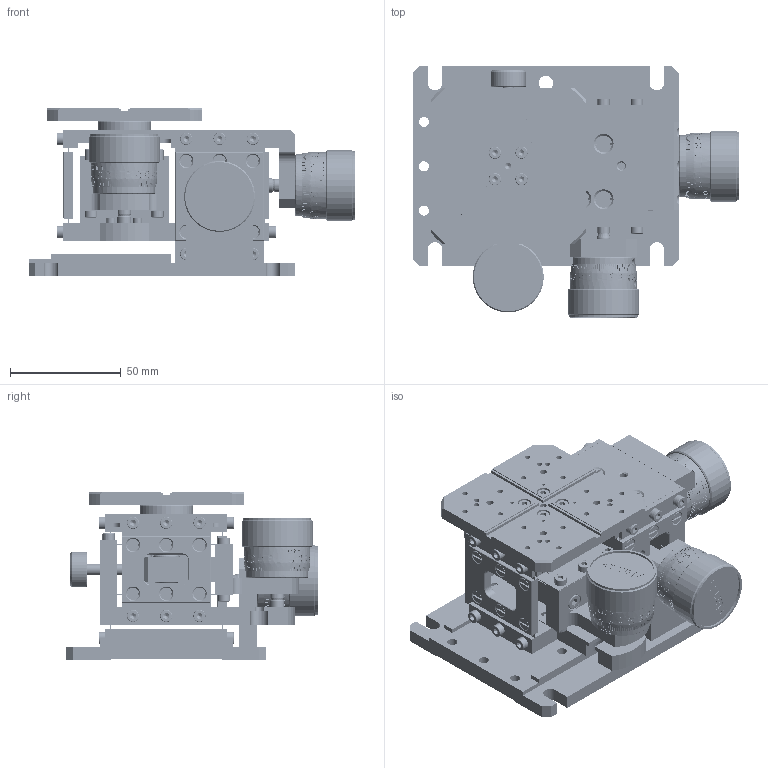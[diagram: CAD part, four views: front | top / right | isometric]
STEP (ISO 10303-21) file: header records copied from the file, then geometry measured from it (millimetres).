
FILE_DESCRIPTION(/* description */ (''),/* implementation_level */ '2;1');
FILE_NAME(/* name */ 'U:\KONSTRUKTORIAI\DOKUMENTACIJA\7\7TF2\STEP\7TF2 SB.stp',/* time_stamp */ '2017-01-11T16:20:43+02:00',/* author */ ('dsgn32'),/* organization */ (''),/* preprocessor_version */ 'ST-DEVELOPER v15.2',/* originating_system */ 'Autodesk Inventor 2014',/* authorisation */ '');
FILE_SCHEMA (('AUTOMOTIVE_DESIGN { 1 0 10303 214 3 1 1 }'));
Products named in the file (2): Part4; Assembly1
Bounding box: 147.15 x 113.25 x 76 mm (x, y, z)
Volume: 301819.3 mm3; surface area: 140732.9 mm2
Topology: 2 solids, 137 shells, 6117 faces, 16481 edges, 10956 vertices
Faces by surface type: plane 2760, bspline 1671, cylinder 1174, cone 421, torus 88, sphere 3
Full cylindrical faces by diameter (mm): 1.567 x4, 1.6 x6, 2 x3, 2.459 x101, 3 x66, 3.2 x3, 3.242 x21, 3.3 x79, 3.6 x2, 4 x25, 4.134 x2, 4.3 x18, 4.5 x5, 4.763 x3, 5 x1, 5.5 x40, 6 x19, 6.5 x3, 7 x9, 8 x8, 8.917 x2, 9 x2, 10 x2, 11 x1, 12 x4, 14 x3, 16 x1, 19 x1, 20 x5, 24 x1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
Entity records: 537517 total; most frequent: CARTESIAN_POINT 404016, ORIENTED_EDGE 29936, DIRECTION 21598, EDGE_CURVE 14960, VERTEX_POINT 10369, EDGE_LOOP 7697, AXIS2_PLACEMENT_3D 7399, LINE 6800
